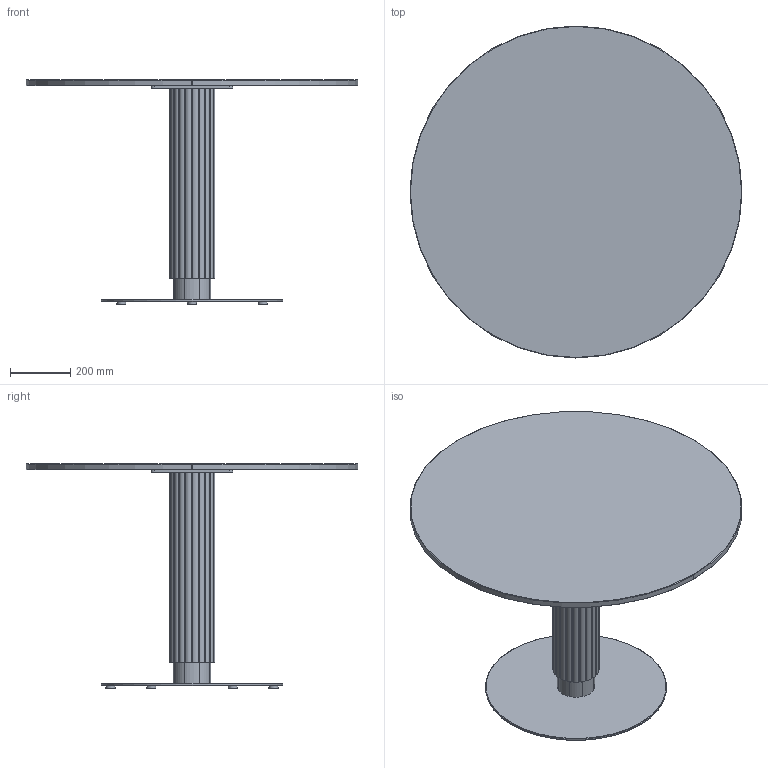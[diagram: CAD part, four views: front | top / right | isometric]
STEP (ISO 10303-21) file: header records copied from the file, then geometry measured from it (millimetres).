
FILE_DESCRIPTION( ('This file contains a STEP AP42 implementation' ,'as created by ZW3D STEP Interface translator.') ,'2;1' );
FILE_NAME( 'God - B_Rond - F1 - M1 - 1100 x 1100 x 750.stp' ,'24 912.113037', (''), ('ZWCAD Software Co.'), 'Version 1.0', 'ZW3D to STEP translator', '' );
FILE_SCHEMA(('AUTOMOTIVE_DESIGN { 1 0 10303 214 1 1 1 1 }'));
Length unit declared in the file: millimetre
Products named in the file (15): 0; PIED BISTROT PARAMETRIQUE_; CROIX ACIER 370 V.02_; CRX-X370-02_; SOCLE ACIER C Ø600 V.02_; SCL-D600-02_; PLA-R30A-01_; PLA-R30A-01; COLONNE ACIER Ø48.5 V.02_; TUB-D048-02_; PLA-R48A-01_; Colonne GODRON H700_; WUERTH 0276063020 Euro-screw 6.3x2 Verzinkt_; PLATEAU BISTROT PARAMETRIQUE_; insert_m6_13_
Assembly tree (25 placements, depth 3):
  0
  PIED BISTROT PARAMETRIQUE_
    CROIX ACIER 370 V.02_
      CRX-X370-02_
    SOCLE ACIER C Ø600 V.02_
      SCL-D600-02_
      PLA-R30A-01_
      PLA-R30A-01  x5
    COLONNE ACIER Ø48.5 V.02_
      TUB-D048-02_
      PLA-R48A-01_  x2
    Colonne GODRON H700_
    WUERTH 0276063020 Euro-screw 6.3x2 Verzinkt_
    PLATEAU BISTROT PARAMETRIQUE_
      insert_m6_13_  x8
Bounding box: 1100 x 1100 x 744 mm (x, y, z)
Volume: 32337171.3 mm3; surface area: 3964594.6 mm2
Topology: 29 solids, 29 shells, 656 faces, 1625 edges, 1042 vertices
Faces by surface type: plane 294, cylinder 193, bspline 121, cone 47, torus 1
Full cylindrical faces by diameter (mm): 4.88 x1, 6 x8, 6.3 x1, 8 x47, 12 x2, 14 x2, 30 x6, 44.5 x3, 48.5 x1, 600 x1
Entity records: 16234 total; most frequent: CARTESIAN_POINT 4039, DIRECTION 2249, ORIENTED_EDGE 2240, EDGE_CURVE 1120, AXIS2_PLACEMENT_3D 800, VERTEX_POINT 728, VECTOR 649, LINE 649
